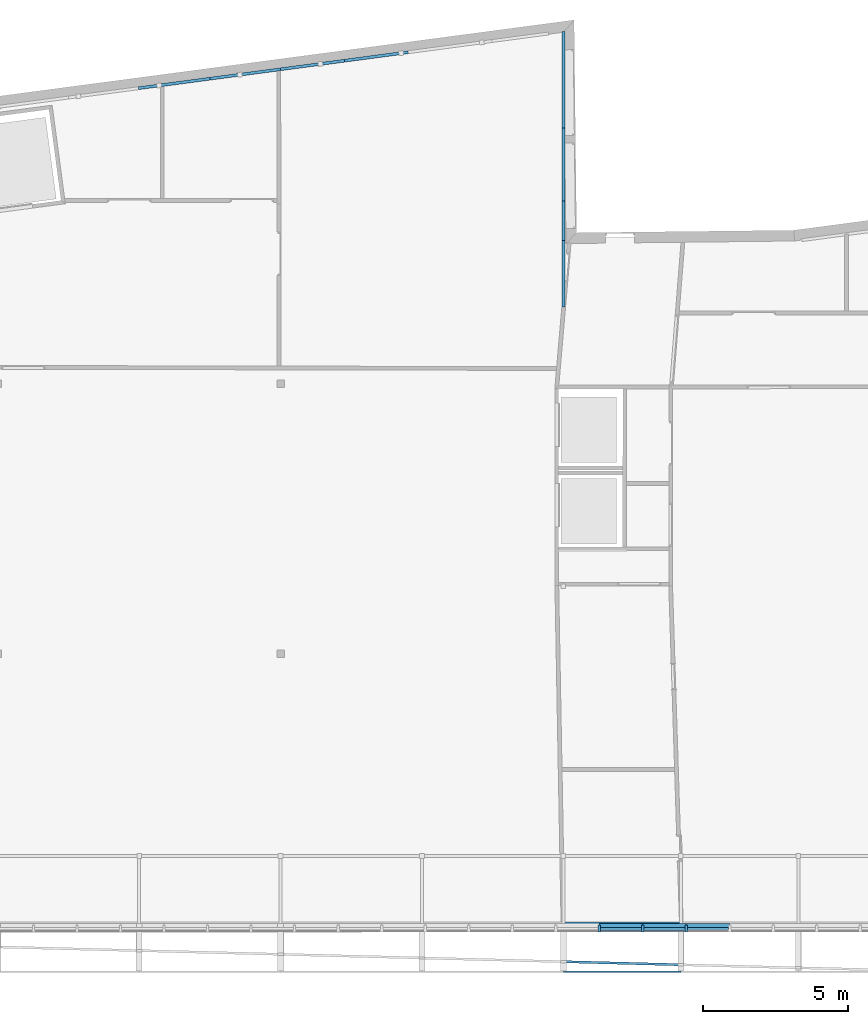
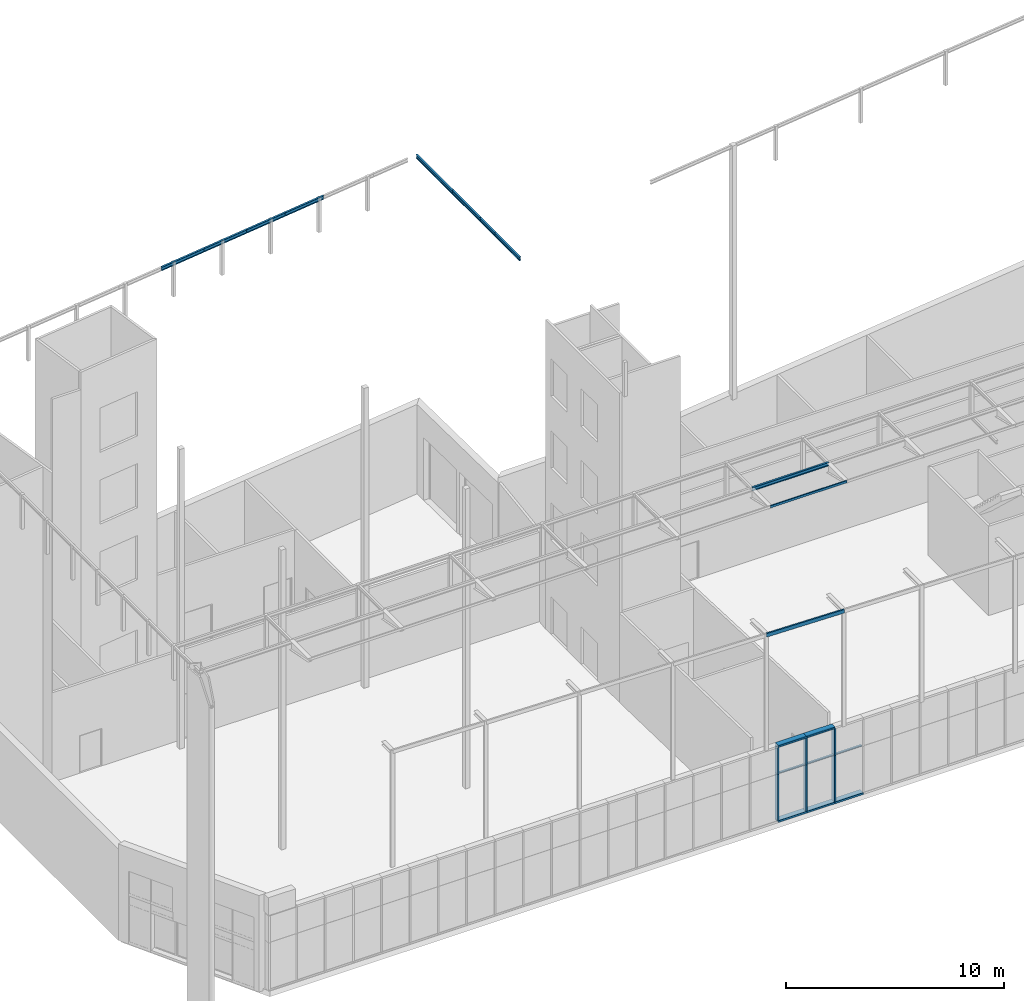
# One storey, part 10 of 40: 16 members, 11 beams, 1 element without a shape of its own.
"""IFC2X3 building model written with IfcOpenShell, lengths in metres."""

import ifcopenshell
import ifcopenshell.guid

model = None  # the IFC model being written
_history = None  # IfcOwnerHistory: only IFC2X3 demands one
_inside = {}  # id of a spatial element -> (the spatial element, [elements in it])
_under = {}  # id of a project, library or spatial element -> (it, [spatial elements below it])
_declared = {}  # id of a project -> (the project, [libraries it declares])
_typed = {}  # id of a type object -> (the type object, [elements of that type])
_made_of = {}  # id of a material, layer set ... -> (it, [elements and type objects made of it])


def new_model(schema):
    """Start an empty IFC model of exactly this schema.

    Asked for "IFC4X3", IfcOpenShell would pick the latest addendum, in which some entities
    have other attributes; the version numbers below select the first issue.
    IFC2X3 requires an IfcOwnerHistory on every rooted entity: one is made here for all.
    """
    global model, _history
    if schema == "IFC4X3":
        model = ifcopenshell.file(schema_version=(4, 3, 0, 0))
    else:
        model = ifcopenshell.file(schema=schema)
    _inside.clear()
    _under.clear()
    _declared.clear()
    _typed.clear()
    _made_of.clear()
    _history = None
    if model.schema == "IFC2X3":
        org = make("IfcOrganization", Name="unknown")
        user = make(
            "IfcPersonAndOrganization",
            ThePerson=make("IfcPerson", FamilyName="unknown"),
            TheOrganization=org,
        )
        app = make(
            "IfcApplication",
            ApplicationDeveloper=org,
            Version="unknown",
            ApplicationFullName="unknown",
            ApplicationIdentifier="unknown",
        )
        _history = make(
            "IfcOwnerHistory",
            OwningUser=user,
            OwningApplication=app,
            ChangeAction="ADDED",
            CreationDate=0,
        )
    return model


def make(cls, **values):
    """One entity of the class cls with the attributes given. An attribute that is None is left unset."""
    return model.create_entity(
        cls, **{name: value for name, value in values.items() if value is not None}
    )


def entity(cls, *values):
    """Any entity or typed value of the class cls, its attributes in the order of the schema. None: left unset."""
    e = model.create_entity(cls)
    for i, value in enumerate(values):
        if value is not None:
            e[i] = value
    return e


def rooted(cls, **values):
    """An entity with a GlobalId (a new one), such as an element, a storey or a relation."""
    return make(cls, GlobalId=ifcopenshell.guid.new(), OwnerHistory=_history, **values)


def si_unit(unit_type, name, prefix=None):
    """IfcSIUnit, for example si_unit("LENGTHUNIT", "METRE", prefix="MILLI")."""
    return make("IfcSIUnit", UnitType=unit_type, Prefix=prefix, Name=name)


def converted_unit(unit_type, name, factor, base, dimensions=None, offset=None):
    """IfcConversionBasedUnit, such as the inch: factor (a typed value) times the base unit."""
    return make(
        "IfcConversionBasedUnit"
        if offset is None
        else "IfcConversionBasedUnitWithOffset",
        ConversionOffset=offset,
        Dimensions=None
        if dimensions is None
        else entity("IfcDimensionalExponents", *dimensions),
        UnitType=unit_type,
        Name=name,
        ConversionFactor=make(
            "IfcMeasureWithUnit", ValueComponent=factor, UnitComponent=base
        ),
    )


def money_unit(currency):
    """IfcMonetaryUnit."""
    return make("IfcMonetaryUnit", Currency=currency)


def assignment(units):
    """IfcUnitAssignment: the units of a project."""
    return None if units is None else make("IfcUnitAssignment", Units=units)


def point(xyz):
    """IfcCartesianPoint."""
    return None if xyz is None else make("IfcCartesianPoint", Coordinates=xyz)


def direction(xyz):
    """IfcDirection."""
    return None if xyz is None else make("IfcDirection", DirectionRatios=xyz)


def frame(location, z_axis=None, x_axis=None):
    """IfcAxis2Placement3D, a coordinate frame: its origin and axes. An axis left out is left unset."""
    return make(
        "IfcAxis2Placement3D",
        Location=point(location),
        Axis=direction(z_axis),
        RefDirection=direction(x_axis),
    )


def frame_2d(location, x_axis=None):
    """IfcAxis2Placement2D, a coordinate frame in the plane: its origin and x axis."""
    return make(
        "IfcAxis2Placement2D", Location=point(location), RefDirection=direction(x_axis)
    )


def origin_with_axes():
    """The frame at (0, 0, 0) with the z axis (0, 0, 1) and the x axis (1, 0, 0) written out."""
    return frame((0.0, 0.0, 0.0), z_axis=(0.0, 0.0, 1.0), x_axis=(1.0, 0.0, 0.0))


def place(relative_to, where):
    """IfcLocalPlacement: puts the frame where relative to a parent placement (None: the world)."""
    return make(
        "IfcLocalPlacement", PlacementRelTo=relative_to, RelativePlacement=where
    )


def context(
    kind, dimensions, precision=None, world=None, true_north=None, identifier=None
):
    """IfcGeometricRepresentationContext, for example the 3D "Model" context."""
    return make(
        "IfcGeometricRepresentationContext",
        ContextIdentifier=identifier,
        ContextType=kind,
        CoordinateSpaceDimension=dimensions,
        Precision=precision,
        WorldCoordinateSystem=world,
        TrueNorth=true_north,
    )


def subcontext(parent, identifier, kind, view, scale=None):
    """IfcGeometricRepresentationSubContext, for example "Body" below "Model"."""
    return make(
        "IfcGeometricRepresentationSubContext",
        ContextIdentifier=identifier,
        ContextType=kind,
        ParentContext=parent,
        TargetScale=scale,
        TargetView=view,
    )


def project(units=None, contexts=None):
    """IfcProject with its units and contexts."""
    return rooted(
        "IfcProject",
        Name="project",
        RepresentationContexts=contexts,
        UnitsInContext=assignment(units),
    )


def spatial(cls, under=None, at=None, **own):
    """A site, building, storey or space (cls), placed at a placement, below another one or the project."""
    s = rooted(cls, ObjectPlacement=at, **own)
    if under is not None:
        _under.setdefault(under.id(), (under, []))[1].append(s)
    return s


def polyline(points):
    """IfcPolyline through the points."""
    return make("IfcPolyline", Points=[point(p) for p in points])


def circle_curve(where, radius):
    """IfcCircle in the frame where."""
    return make("IfcCircle", Position=where, Radius=radius)


def parameter(value):
    """IfcParameterValue: where a trimmed curve begins or ends, as a parameter of its basis curve."""
    return model.create_entity("IfcParameterValue", value)


def trimmed(basis, trim1, trim2, sense, master):
    """IfcTrimmedCurve: the piece of a basis curve between two trims."""
    return make(
        "IfcTrimmedCurve",
        BasisCurve=basis,
        Trim1=trim1,
        Trim2=trim2,
        SenseAgreement=sense,
        MasterRepresentation=master,
    )


def segment(curve, same_sense, transition):
    """IfcCompositeCurveSegment."""
    return make(
        "IfcCompositeCurveSegment",
        Transition=transition,
        SameSense=same_sense,
        ParentCurve=curve,
    )


def composite_curve(segments, self_intersect=None):
    """IfcCompositeCurve: segments joined end to end."""
    return make("IfcCompositeCurve", Segments=segments, SelfIntersect=self_intersect)


def outline(outer, holes=None, kind="AREA"):
    """IfcArbitraryClosedProfileDef: a profile drawn as a closed curve; with holes, ...WithVoids."""
    if holes is None:
        return make("IfcArbitraryClosedProfileDef", ProfileType=kind, OuterCurve=outer)
    return make(
        "IfcArbitraryProfileDefWithVoids",
        ProfileType=kind,
        OuterCurve=outer,
        InnerCurves=holes,
    )


def extrude(swept, where, along, depth):
    """IfcExtrudedAreaSolid: the profile swept, set in the frame where, extruded along a direction by depth."""
    return make(
        "IfcExtrudedAreaSolid",
        SweptArea=swept,
        Position=where,
        ExtrudedDirection=direction(along),
        Depth=depth,
    )


def shape(context_of_items, identifier, shape_type, items):
    """IfcShapeRepresentation: the items that make up one representation, for example the "Body"."""
    return make(
        "IfcShapeRepresentation",
        ContextOfItems=context_of_items,
        RepresentationIdentifier=identifier,
        RepresentationType=shape_type,
        Items=items,
    )


def material(Name=None, Category=None):
    """IfcMaterial."""
    return make("IfcMaterial", Name=Name, Category=Category)


def made_of(thing, what):
    """Note that an element or type object is made of a material, layer set ...; save() writes the relation."""
    if what is not None:
        _made_of.setdefault(what.id(), (what, []))[1].append(thing)
    return thing


def type_object(cls, material=None, **own):
    """A type object (cls), such as IfcWallType, which elements share."""
    return made_of(rooted(cls, **own), material)


def element(
    cls,
    number,
    at=None,
    inside=None,
    cuts=None,
    type_object=None,
    material=None,
    context=None,
    identifier="Body",
    shape_type=None,
    held_by="IfcProductDefinitionShape",
    body=None,
    shapes=None,
    **own,
):
    """One element of the class cls, such as IfcWall. Its Tag is "e" and its number.

    at: its placement. inside: the storey or other place that contains it. cuts: it is an
    opening in that element (IfcRelVoidsElement). A single representation is given by context,
    identifier, shape_type and body (its items); several are given by shapes. held_by: the class
    of the entity that holds the representations. save() writes the other relations.
    """
    e = rooted(cls, Tag="e%d" % number, ObjectPlacement=at, **own)
    if body is not None:
        shapes = [shape(context, identifier, shape_type, body)]
    if shapes is not None:
        e.Representation = make(held_by, Representations=shapes)
    if inside is not None:
        _inside.setdefault(inside.id(), (inside, []))[1].append(e)
    if cuts is not None:
        rooted(
            "IfcRelVoidsElement", RelatingBuildingElement=cuts, RelatedOpeningElement=e
        )
    if type_object is not None:
        _typed.setdefault(type_object.id(), (type_object, []))[1].append(e)
    return made_of(e, material)


def aggregate(whole, parts):
    """IfcRelAggregates: a whole, such as a stair, and the parts it consists of."""
    return rooted("IfcRelAggregates", RelatingObject=whole, RelatedObjects=parts)


def save(model, path):
    """Write the relations noted so far, then the file.

    IfcRelAggregates (storeys below a building ...), IfcRelContainedInSpatialStructure (elements
    in a storey), IfcRelDefinesByType, IfcRelAssociatesMaterial and IfcRelDeclares: one each for
    every whole, place, type object, material and project.
    """
    for whole, parts in _under.values():
        aggregate(whole, parts)
    for where, things in _inside.values():
        rooted(
            "IfcRelContainedInSpatialStructure",
            RelatedElements=things,
            RelatingStructure=where,
        )
    for kind, things in _typed.values():
        rooted("IfcRelDefinesByType", RelatedObjects=things, RelatingType=kind)
    for what, things in _made_of.values():
        rooted("IfcRelAssociatesMaterial", RelatedObjects=things, RelatingMaterial=what)
    for by, libraries in _declared.values():
        rooted("IfcRelDeclares", RelatingContext=by, RelatedDefinitions=libraries)
    model.write(path)


model = new_model("IFC2X3")

# Units and contexts
model_context = context("Model", 3, precision=1e-05, world=origin_with_axes(), true_north=direction((0.0, 1.0)))
body_context = subcontext(model_context, "Body", "Model", "MODEL_VIEW")
ifc_project = project(units=[si_unit("LENGTHUNIT", "METRE"), si_unit("AREAUNIT", "SQUARE_METRE"), si_unit("VOLUMEUNIT", "CUBIC_METRE"), converted_unit("PLANEANGLEUNIT", "DEGREE", entity("IfcPlaneAngleMeasure", 0.0174532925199), si_unit("PLANEANGLEUNIT", "RADIAN"), dimensions=[0, 0, 0, 0, 0, 0, 0]), si_unit("SOLIDANGLEUNIT", "STERADIAN"), money_unit("EUR"), converted_unit("TIMEUNIT", "Year", entity("IfcTimeMeasure", 31556926.0), si_unit("TIMEUNIT", "SECOND"), dimensions=[0, 0, 0, 0, 0, 0, 0]), si_unit("MASSUNIT", "GRAM"), si_unit("THERMODYNAMICTEMPERATUREUNIT", "DEGREE_CELSIUS"), si_unit("LUMINOUSINTENSITYUNIT", "LUMEN")], contexts=[model_context])

# Site, building, storey
site_placement = place(None, origin_with_axes())
site = spatial("IfcSite", under=ifc_project, at=site_placement, Name="Undefined", CompositionType="ELEMENT")
building_placement = place(site_placement, origin_with_axes())
building = spatial("IfcBuilding", under=site, at=building_placement, Name="Undefined", CompositionType="ELEMENT")
storey_placement = place(building_placement, origin_with_axes())
storey = spatial("IfcBuildingStorey", under=building, at=storey_placement, Name="Rez de chauss\x8ee", CompositionType="ELEMENT", Elevation=0.0)

# Beams
ifc_material_1 = material(Name="STEEL/S235JRG2 3386696625")
beam_type_1 = type_object("IfcBeamType", Name="IPE200", PredefinedType="NOTDEFINED")
beam_1_placement = place(storey_placement, frame((19.4999996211, 29.4484599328, 19.025), z_axis=(0.0, 0.0, 1.0), x_axis=(0.132254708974, -0.991215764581, 0.0)))
element("IfcBeam", 1, at=beam_1_placement, inside=storey, type_object=beam_type_1, material=ifc_material_1, Name="Poutre", ObjectType="BEAM", context=body_context, shape_type="SweptSolid", body=[
    extrude(outline(composite_curve([segment(polyline([(0.05, -0.1), (0.05, -0.0915), (0.0147999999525, -0.0915)]), True, "CONTINUOUS"), segment(trimmed(circle_curve(frame_2d((0.0147999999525, -0.0795), x_axis=(-1.0, 0.0)), 0.012), [point((0.0147999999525, -0.0915)), parameter(90.0)], [point((0.0027999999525, -0.0795)), parameter(0.0)], False, "CARTESIAN"), True, "CONTINUOUS"), segment(polyline([(0.0027999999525, -0.0795), (0.0027999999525, 0.0795)]), True, "CONTINUOUS"), segment(trimmed(circle_curve(frame_2d((0.0147999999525, 0.0795), x_axis=(0.0, 1.0)), 0.012), [point((0.0027999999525, 0.0795)), parameter(90.0)], [point((0.0147999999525, 0.0915)), parameter(0.0)], False, "CARTESIAN"), True, "CONTINUOUS"), segment(polyline([(0.0147999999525, 0.0915), (0.05, 0.0915), (0.05, 0.1), (-0.05, 0.1), (-0.05, 0.0915), (-0.0147999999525, 0.0915)]), True, "CONTINUOUS"), segment(trimmed(circle_curve(frame_2d((-0.0147999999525, 0.0795), x_axis=(1.0, 0.0)), 0.012), [point((-0.0147999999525, 0.0915)), parameter(90.0)], [point((-0.0027999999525, 0.0795)), parameter(0.0)], False, "CARTESIAN"), True, "CONTINUOUS"), segment(polyline([(-0.0027999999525, 0.0795), (-0.0027999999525, -0.0795)]), True, "CONTINUOUS"), segment(trimmed(circle_curve(frame_2d((-0.0147999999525, -0.0795), x_axis=(0.0, -1.0)), 0.012), [point((-0.0027999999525, -0.0795)), parameter(90.0)], [point((-0.0147999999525, -0.0915)), parameter(0.0)], False, "CARTESIAN"), True, "CONTINUOUS"), segment(polyline([(-0.0147999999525, -0.0915), (-0.05, -0.0915), (-0.05, -0.1), (0.05, -0.1)]), True, "CONTINUOUS")], self_intersect=False)), frame((0.0, 2.22009719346, 0.0), z_axis=(0.0, -1.0, 0.0), x_axis=(1.0, 0.0, 0.0)), (0.0, 0.0, 1.0), 2.22009719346),
])
beam_2_placement = place(storey_placement, frame((29.2500007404, 3.10814379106e-10, 19.025), z_axis=(0.0, 0.0, 1.0), x_axis=(0.0, -1.0, 0.0)))
element("IfcBeam", 2, at=beam_2_placement, inside=storey, type_object=beam_type_1, material=ifc_material_1, Name="Poutre", ObjectType="BEAM", context=body_context, shape_type="SweptSolid", body=[
    extrude(outline(composite_curve([segment(polyline([(0.05, -0.1), (0.05, -0.0915), (0.0147999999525, -0.0915)]), True, "CONTINUOUS"), segment(trimmed(circle_curve(frame_2d((0.0147999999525, -0.0795), x_axis=(-1.0, 0.0)), 0.012), [point((0.0147999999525, -0.0915)), parameter(90.0)], [point((0.0027999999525, -0.0795)), parameter(0.0)], False, "CARTESIAN"), True, "CONTINUOUS"), segment(polyline([(0.0027999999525, -0.0795), (0.0027999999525, 0.0795)]), True, "CONTINUOUS"), segment(trimmed(circle_curve(frame_2d((0.0147999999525, 0.0795), x_axis=(0.0, 1.0)), 0.012), [point((0.0027999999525, 0.0795)), parameter(90.0)], [point((0.0147999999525, 0.0915)), parameter(0.0)], False, "CARTESIAN"), True, "CONTINUOUS"), segment(polyline([(0.0147999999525, 0.0915), (0.05, 0.0915), (0.05, 0.1), (-0.05, 0.1), (-0.05, 0.0915), (-0.0147999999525, 0.0915)]), True, "CONTINUOUS"), segment(trimmed(circle_curve(frame_2d((-0.0147999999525, 0.0795), x_axis=(1.0, 0.0)), 0.012), [point((-0.0147999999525, 0.0915)), parameter(90.0)], [point((-0.0027999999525, 0.0795)), parameter(0.0)], False, "CARTESIAN"), True, "CONTINUOUS"), segment(polyline([(-0.0027999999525, 0.0795), (-0.0027999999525, -0.0795)]), True, "CONTINUOUS"), segment(trimmed(circle_curve(frame_2d((-0.0147999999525, -0.0795), x_axis=(0.0, -1.0)), 0.012), [point((-0.0027999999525, -0.0795)), parameter(90.0)], [point((-0.0147999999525, -0.0915)), parameter(0.0)], False, "CARTESIAN"), True, "CONTINUOUS"), segment(polyline([(-0.0147999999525, -0.0915), (-0.05, -0.0915), (-0.05, -0.1), (0.05, -0.1)]), True, "CONTINUOUS")], self_intersect=False)), frame((0.0, 4.05, 0.0), z_axis=(0.0, -1.0, 0.0), x_axis=(1.0, 0.0, 0.0)), (0.0, 0.0, 1.0), 4.05),
])
beam_3_placement = place(storey_placement, frame((29.2500000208, 30.7493798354, 19.025), z_axis=(0.0, 0.0, 1.0), x_axis=(-1.0, 6.63013993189e-09, 0.0)))
element("IfcBeam", 3, at=beam_3_placement, inside=storey, type_object=beam_type_1, material=ifc_material_1, Name="Poutre", ObjectType="BEAM", context=body_context, shape_type="SweptSolid", body=[
    extrude(outline(composite_curve([segment(polyline([(0.05, -0.1), (0.05, -0.0915), (0.0147999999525, -0.0915)]), True, "CONTINUOUS"), segment(trimmed(circle_curve(frame_2d((0.0147999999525, -0.0795), x_axis=(-1.0, 0.0)), 0.012), [point((0.0147999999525, -0.0915)), parameter(90.0)], [point((0.0027999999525, -0.0795)), parameter(0.0)], False, "CARTESIAN"), True, "CONTINUOUS"), segment(polyline([(0.0027999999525, -0.0795), (0.0027999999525, 0.0795)]), True, "CONTINUOUS"), segment(trimmed(circle_curve(frame_2d((0.0147999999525, 0.0795), x_axis=(0.0, 1.0)), 0.012), [point((0.0027999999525, 0.0795)), parameter(90.0)], [point((0.0147999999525, 0.0915)), parameter(0.0)], False, "CARTESIAN"), True, "CONTINUOUS"), segment(polyline([(0.0147999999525, 0.0915), (0.05, 0.0915), (0.05, 0.1), (-0.05, 0.1), (-0.05, 0.0915), (-0.0147999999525, 0.0915)]), True, "CONTINUOUS"), segment(trimmed(circle_curve(frame_2d((-0.0147999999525, 0.0795), x_axis=(1.0, 0.0)), 0.012), [point((-0.0147999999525, 0.0915)), parameter(90.0)], [point((-0.0027999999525, 0.0795)), parameter(0.0)], False, "CARTESIAN"), True, "CONTINUOUS"), segment(polyline([(-0.0027999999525, 0.0795), (-0.0027999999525, -0.0795)]), True, "CONTINUOUS"), segment(trimmed(circle_curve(frame_2d((-0.0147999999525, -0.0795), x_axis=(0.0, -1.0)), 0.012), [point((-0.0027999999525, -0.0795)), parameter(90.0)], [point((-0.0147999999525, -0.0915)), parameter(0.0)], False, "CARTESIAN"), True, "CONTINUOUS"), segment(polyline([(-0.0147999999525, -0.0915), (-0.05, -0.0915), (-0.05, -0.1), (0.05, -0.1)]), True, "CONTINUOUS")], self_intersect=False)), frame((0.0, 3.31937983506, 0.0), z_axis=(0.0, -1.0, 0.0), x_axis=(1.0, 0.0, 0.0)), (0.0, 0.0, 1.0), 3.31937983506),
])
beam_4_placement = place(storey_placement, frame((29.2499999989, 27.4300000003, 19.025), z_axis=(0.0, 0.0, 1.0), x_axis=(-1.0, 0.0, 0.0)))
element("IfcBeam", 4, at=beam_4_placement, inside=storey, type_object=beam_type_1, material=ifc_material_1, Name="Poutre", ObjectType="BEAM", context=body_context, shape_type="SweptSolid", body=[
    extrude(outline(composite_curve([segment(polyline([(0.05, -0.1), (0.05, -0.0915), (0.0147999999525, -0.0915)]), True, "CONTINUOUS"), segment(trimmed(circle_curve(frame_2d((0.0147999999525, -0.0795), x_axis=(-1.0, 0.0)), 0.012), [point((0.0147999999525, -0.0915)), parameter(90.0)], [point((0.0027999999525, -0.0795)), parameter(0.0)], False, "CARTESIAN"), True, "CONTINUOUS"), segment(polyline([(0.0027999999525, -0.0795), (0.0027999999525, 0.0795)]), True, "CONTINUOUS"), segment(trimmed(circle_curve(frame_2d((0.0147999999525, 0.0795), x_axis=(0.0, 1.0)), 0.012), [point((0.0027999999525, 0.0795)), parameter(90.0)], [point((0.0147999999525, 0.0915)), parameter(0.0)], False, "CARTESIAN"), True, "CONTINUOUS"), segment(polyline([(0.0147999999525, 0.0915), (0.05, 0.0915), (0.05, 0.1), (-0.05, 0.1), (-0.05, 0.0915), (-0.0147999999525, 0.0915)]), True, "CONTINUOUS"), segment(trimmed(circle_curve(frame_2d((-0.0147999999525, 0.0795), x_axis=(1.0, 0.0)), 0.012), [point((-0.0147999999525, 0.0915)), parameter(90.0)], [point((-0.0027999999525, 0.0795)), parameter(0.0)], False, "CARTESIAN"), True, "CONTINUOUS"), segment(polyline([(-0.0027999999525, 0.0795), (-0.0027999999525, -0.0795)]), True, "CONTINUOUS"), segment(trimmed(circle_curve(frame_2d((-0.0147999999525, -0.0795), x_axis=(0.0, -1.0)), 0.012), [point((-0.0027999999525, -0.0795)), parameter(90.0)], [point((-0.0147999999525, -0.0915)), parameter(0.0)], False, "CARTESIAN"), True, "CONTINUOUS"), segment(polyline([(-0.0147999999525, -0.0915), (-0.05, -0.0915), (-0.05, -0.1), (0.05, -0.1)]), True, "CONTINUOUS")], self_intersect=False)), frame((0.0, 2.53, 0.0), z_axis=(0.0, -1.0, 0.0), x_axis=(1.0, 0.0, 0.0)), (0.0, 0.0, 1.0), 2.53),
])
beam_5_placement = place(storey_placement, frame((29.249999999, 24.9000000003, 19.025), z_axis=(0.0, 0.0, 1.0), x_axis=(-1.0, 0.0, 0.0)))
element("IfcBeam", 5, at=beam_5_placement, inside=storey, type_object=beam_type_1, material=ifc_material_1, Name="Poutre", ObjectType="BEAM", context=body_context, shape_type="SweptSolid", body=[
    extrude(outline(composite_curve([segment(polyline([(0.05, -0.1), (0.05, -0.0915), (0.0147999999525, -0.0915)]), True, "CONTINUOUS"), segment(trimmed(circle_curve(frame_2d((0.0147999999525, -0.0795), x_axis=(-1.0, 0.0)), 0.012), [point((0.0147999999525, -0.0915)), parameter(90.0)], [point((0.0027999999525, -0.0795)), parameter(0.0)], False, "CARTESIAN"), True, "CONTINUOUS"), segment(polyline([(0.0027999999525, -0.0795), (0.0027999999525, 0.0795)]), True, "CONTINUOUS"), segment(trimmed(circle_curve(frame_2d((0.0147999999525, 0.0795), x_axis=(0.0, 1.0)), 0.012), [point((0.0027999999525, 0.0795)), parameter(90.0)], [point((0.0147999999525, 0.0915)), parameter(0.0)], False, "CARTESIAN"), True, "CONTINUOUS"), segment(polyline([(0.0147999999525, 0.0915), (0.05, 0.0915), (0.05, 0.1), (-0.05, 0.1), (-0.05, 0.0915), (-0.0147999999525, 0.0915)]), True, "CONTINUOUS"), segment(trimmed(circle_curve(frame_2d((-0.0147999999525, 0.0795), x_axis=(1.0, 0.0)), 0.012), [point((-0.0147999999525, 0.0915)), parameter(90.0)], [point((-0.0027999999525, 0.0795)), parameter(0.0)], False, "CARTESIAN"), True, "CONTINUOUS"), segment(polyline([(-0.0027999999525, 0.0795), (-0.0027999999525, -0.0795)]), True, "CONTINUOUS"), segment(trimmed(circle_curve(frame_2d((-0.0147999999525, -0.0795), x_axis=(0.0, -1.0)), 0.012), [point((-0.0027999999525, -0.0795)), parameter(90.0)], [point((-0.0147999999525, -0.0915)), parameter(0.0)], False, "CARTESIAN"), True, "CONTINUOUS"), segment(polyline([(-0.0147999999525, -0.0915), (-0.05, -0.0915), (-0.05, -0.1), (0.05, -0.1)]), True, "CONTINUOUS")], self_intersect=False)), frame((0.0, 1.3559, 0.0), z_axis=(0.0, -1.0, 0.0), x_axis=(1.0, 0.0, 0.0)), (0.0, 0.0, 1.0), 1.3559),
])
beam_6_placement = place(storey_placement, frame((21.7005948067, 29.7420793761, 19.025), z_axis=(0.0, 0.0, 1.0), x_axis=(0.132254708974, -0.991215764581, 0.0)))
element("IfcBeam", 6, at=beam_6_placement, inside=storey, type_object=beam_type_1, material=ifc_material_1, Name="Poutre", ObjectType="BEAM", context=body_context, shape_type="SweptSolid", body=[
    extrude(outline(composite_curve([segment(polyline([(0.05, -0.1), (0.05, -0.0915), (0.0147999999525, -0.0915)]), True, "CONTINUOUS"), segment(trimmed(circle_curve(frame_2d((0.0147999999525, -0.0795), x_axis=(-1.0, 0.0)), 0.012), [point((0.0147999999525, -0.0915)), parameter(90.0)], [point((0.0027999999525, -0.0795)), parameter(0.0)], False, "CARTESIAN"), True, "CONTINUOUS"), segment(polyline([(0.0027999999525, -0.0795), (0.0027999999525, 0.0795)]), True, "CONTINUOUS"), segment(trimmed(circle_curve(frame_2d((0.0147999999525, 0.0795), x_axis=(0.0, 1.0)), 0.012), [point((0.0027999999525, 0.0795)), parameter(90.0)], [point((0.0147999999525, 0.0915)), parameter(0.0)], False, "CARTESIAN"), True, "CONTINUOUS"), segment(polyline([(0.0147999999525, 0.0915), (0.05, 0.0915), (0.05, 0.1), (-0.05, 0.1), (-0.05, 0.0915), (-0.0147999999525, 0.0915)]), True, "CONTINUOUS"), segment(trimmed(circle_curve(frame_2d((-0.0147999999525, 0.0795), x_axis=(1.0, 0.0)), 0.012), [point((-0.0147999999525, 0.0915)), parameter(90.0)], [point((-0.0027999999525, 0.0795)), parameter(0.0)], False, "CARTESIAN"), True, "CONTINUOUS"), segment(polyline([(-0.0027999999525, 0.0795), (-0.0027999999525, -0.0795)]), True, "CONTINUOUS"), segment(trimmed(circle_curve(frame_2d((-0.0147999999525, -0.0795), x_axis=(0.0, -1.0)), 0.012), [point((-0.0027999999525, -0.0795)), parameter(90.0)], [point((-0.0147999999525, -0.0915)), parameter(0.0)], False, "CARTESIAN"), True, "CONTINUOUS"), segment(polyline([(-0.0147999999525, -0.0915), (-0.05, -0.0915), (-0.05, -0.1), (0.05, -0.1)]), True, "CONTINUOUS")], self_intersect=False)), frame((0.0, 2.22009724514, 0.0), z_axis=(0.0, -1.0, 0.0), x_axis=(1.0, 0.0, 0.0)), (0.0, 0.0, 1.0), 2.22009724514),
])
beam_7_placement = place(storey_placement, frame((14.6008758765, 28.7947724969, 19.025), z_axis=(0.0, 0.0, 1.0), x_axis=(0.132256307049, -0.991215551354, 0.0)))
element("IfcBeam", 7, at=beam_7_placement, inside=storey, type_object=beam_type_1, material=ifc_material_1, Name="Poutre", ObjectType="BEAM", context=body_context, shape_type="SweptSolid", body=[
    extrude(outline(composite_curve([segment(polyline([(0.05, -0.1), (0.05, -0.0915), (0.0147999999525, -0.0915)]), True, "CONTINUOUS"), segment(trimmed(circle_curve(frame_2d((0.0147999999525, -0.0795), x_axis=(-1.0, 0.0)), 0.012), [point((0.0147999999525, -0.0915)), parameter(90.0)], [point((0.0027999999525, -0.0795)), parameter(0.0)], False, "CARTESIAN"), True, "CONTINUOUS"), segment(polyline([(0.0027999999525, -0.0795), (0.0027999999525, 0.0795)]), True, "CONTINUOUS"), segment(trimmed(circle_curve(frame_2d((0.0147999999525, 0.0795), x_axis=(0.0, 1.0)), 0.012), [point((0.0027999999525, 0.0795)), parameter(90.0)], [point((0.0147999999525, 0.0915)), parameter(0.0)], False, "CARTESIAN"), True, "CONTINUOUS"), segment(polyline([(0.0147999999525, 0.0915), (0.05, 0.0915), (0.05, 0.1), (-0.05, 0.1), (-0.05, 0.0915), (-0.0147999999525, 0.0915)]), True, "CONTINUOUS"), segment(trimmed(circle_curve(frame_2d((-0.0147999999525, 0.0795), x_axis=(1.0, 0.0)), 0.012), [point((-0.0147999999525, 0.0915)), parameter(90.0)], [point((-0.0027999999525, 0.0795)), parameter(0.0)], False, "CARTESIAN"), True, "CONTINUOUS"), segment(polyline([(-0.0027999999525, 0.0795), (-0.0027999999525, -0.0795)]), True, "CONTINUOUS"), segment(trimmed(circle_curve(frame_2d((-0.0147999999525, -0.0795), x_axis=(0.0, -1.0)), 0.012), [point((-0.0027999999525, -0.0795)), parameter(90.0)], [point((-0.0147999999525, -0.0915)), parameter(0.0)], False, "CARTESIAN"), True, "CONTINUOUS"), segment(polyline([(-0.0147999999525, -0.0915), (-0.05, -0.0915), (-0.05, -0.1), (0.05, -0.1)]), True, "CONTINUOUS")], self_intersect=False)), frame((0.0, 2.48343983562, 0.0), z_axis=(0.0, -1.0, 0.0), x_axis=(1.0, 0.0, 0.0)), (0.0, 0.0, 1.0), 2.48343983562),
])
beam_8_placement = place(storey_placement, frame((17.0624998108, 29.1232249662, 19.025), z_axis=(0.0, 0.0, 1.0), x_axis=(0.132257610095, -0.99121537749, 0.0)))
element("IfcBeam", 8, at=beam_8_placement, inside=storey, type_object=beam_type_1, material=ifc_material_1, Name="Poutre", ObjectType="BEAM", context=body_context, shape_type="SweptSolid", body=[
    extrude(outline(composite_curve([segment(polyline([(0.05, -0.1), (0.05, -0.0915), (0.0147999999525, -0.0915)]), True, "CONTINUOUS"), segment(trimmed(circle_curve(frame_2d((0.0147999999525, -0.0795), x_axis=(-1.0, 0.0)), 0.012), [point((0.0147999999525, -0.0915)), parameter(90.0)], [point((0.0027999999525, -0.0795)), parameter(0.0)], False, "CARTESIAN"), True, "CONTINUOUS"), segment(polyline([(0.0027999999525, -0.0795), (0.0027999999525, 0.0795)]), True, "CONTINUOUS"), segment(trimmed(circle_curve(frame_2d((0.0147999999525, 0.0795), x_axis=(0.0, 1.0)), 0.012), [point((0.0027999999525, 0.0795)), parameter(90.0)], [point((0.0147999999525, 0.0915)), parameter(0.0)], False, "CARTESIAN"), True, "CONTINUOUS"), segment(polyline([(0.0147999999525, 0.0915), (0.05, 0.0915), (0.05, 0.1), (-0.05, 0.1), (-0.05, 0.0915), (-0.0147999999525, 0.0915)]), True, "CONTINUOUS"), segment(trimmed(circle_curve(frame_2d((-0.0147999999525, 0.0795), x_axis=(1.0, 0.0)), 0.012), [point((-0.0147999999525, 0.0915)), parameter(90.0)], [point((-0.0027999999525, 0.0795)), parameter(0.0)], False, "CARTESIAN"), True, "CONTINUOUS"), segment(polyline([(-0.0027999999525, 0.0795), (-0.0027999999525, -0.0795)]), True, "CONTINUOUS"), segment(trimmed(circle_curve(frame_2d((-0.0147999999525, -0.0795), x_axis=(0.0, -1.0)), 0.012), [point((-0.0027999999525, -0.0795)), parameter(90.0)], [point((-0.0147999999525, -0.0915)), parameter(0.0)], False, "CARTESIAN"), True, "CONTINUOUS"), segment(polyline([(-0.0147999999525, -0.0915), (-0.05, -0.0915), (-0.05, -0.1), (0.05, -0.1)]), True, "CONTINUOUS")], self_intersect=False)), frame((0.0, 2.45910209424, 0.0), z_axis=(0.0, -1.0, 0.0), x_axis=(1.0, 0.0, 0.0)), (0.0, 0.0, 1.0), 2.45910209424),
])
beam_9_placement = place(storey_placement, frame((29.249999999, 23.5441000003, 19.025), z_axis=(0.0, 0.0, 1.0), x_axis=(-1.0, 0.0, 0.0)))
element("IfcBeam", 9, at=beam_9_placement, inside=storey, type_object=beam_type_1, material=ifc_material_1, Name="Poutre", ObjectType="BEAM", context=body_context, shape_type="SweptSolid", body=[
    extrude(outline(composite_curve([segment(polyline([(0.05, -0.1), (0.05, -0.0915), (0.0147999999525, -0.0915)]), True, "CONTINUOUS"), segment(trimmed(circle_curve(frame_2d((0.0147999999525, -0.0795), x_axis=(-1.0, 0.0)), 0.012), [point((0.0147999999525, -0.0915)), parameter(90.0)], [point((0.0027999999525, -0.0795)), parameter(0.0)], False, "CARTESIAN"), True, "CONTINUOUS"), segment(polyline([(0.0027999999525, -0.0795), (0.0027999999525, 0.0795)]), True, "CONTINUOUS"), segment(trimmed(circle_curve(frame_2d((0.0147999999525, 0.0795), x_axis=(0.0, 1.0)), 0.012), [point((0.0027999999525, 0.0795)), parameter(90.0)], [point((0.0147999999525, 0.0915)), parameter(0.0)], False, "CARTESIAN"), True, "CONTINUOUS"), segment(polyline([(0.0147999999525, 0.0915), (0.05, 0.0915), (0.05, 0.1), (-0.05, 0.1), (-0.05, 0.0915), (-0.0147999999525, 0.0915)]), True, "CONTINUOUS"), segment(trimmed(circle_curve(frame_2d((-0.0147999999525, 0.0795), x_axis=(1.0, 0.0)), 0.012), [point((-0.0147999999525, 0.0915)), parameter(90.0)], [point((-0.0027999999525, 0.0795)), parameter(0.0)], False, "CARTESIAN"), True, "CONTINUOUS"), segment(polyline([(-0.0027999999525, 0.0795), (-0.0027999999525, -0.0795)]), True, "CONTINUOUS"), segment(trimmed(circle_curve(frame_2d((-0.0147999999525, -0.0795), x_axis=(0.0, -1.0)), 0.012), [point((-0.0027999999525, -0.0795)), parameter(90.0)], [point((-0.0147999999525, -0.0915)), parameter(0.0)], False, "CARTESIAN"), True, "CONTINUOUS"), segment(polyline([(-0.0147999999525, -0.0915), (-0.05, -0.0915), (-0.05, -0.1), (0.05, -0.1)]), True, "CONTINUOUS")], self_intersect=False)), frame((0.0, 2.3, 0.0), z_axis=(0.0, -1.0, 0.0), x_axis=(1.0, 0.0, 0.0)), (0.0, 0.0, 1.0), 2.3),
])
beam_type_2 = type_object("IfcBeamType", Name="UPE200", PredefinedType="NOTDEFINED")
beam_10_placement = place(storey_placement, frame((29.2510506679, -1.31984608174, 11.65), z_axis=(0.0, 0.0, 1.0), x_axis=(-0.0262667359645, -0.999654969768, 0.0)))
element("IfcBeam", 10, at=beam_10_placement, inside=storey, type_object=beam_type_2, material=ifc_material_1, Name="BEAM", ObjectType="BEAM", context=body_context, shape_type="SweptSolid", body=[
    extrude(outline(composite_curve([segment(polyline([(-0.04, -0.1), (0.04, -0.1), (0.04, -0.089), (-0.021, -0.089)]), True, "CONTINUOUS"), segment(trimmed(circle_curve(frame_2d((-0.021, -0.076), x_axis=(-1.0, 0.0)), 0.013), [point((-0.021, -0.089)), parameter(90.0)], [point((-0.034, -0.076)), parameter(0.0)], False, "CARTESIAN"), True, "CONTINUOUS"), segment(polyline([(-0.034, -0.076), (-0.034, 0.076)]), True, "CONTINUOUS"), segment(trimmed(circle_curve(frame_2d((-0.021, 0.076), x_axis=(0.0, 1.0)), 0.013), [point((-0.034, 0.076)), parameter(90.0)], [point((-0.021, 0.089)), parameter(0.0)], False, "CARTESIAN"), True, "CONTINUOUS"), segment(polyline([(-0.021, 0.089), (0.04, 0.089), (0.04, 0.1), (-0.04, 0.1), (-0.04, -0.1)]), True, "CONTINUOUS")], self_intersect=False)), frame((0.0, 4.05139785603, 0.0), z_axis=(0.0, -1.0, 0.0), x_axis=(-1.0, 0.0, 0.0)), (0.0, 0.0, 1.0), 4.05139785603),
])
beam_type_3 = type_object("IfcBeamType", Name="UPE120", PredefinedType="NOTDEFINED")
beam_11_placement = place(storey_placement, frame((29.2574609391, -1.67000005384, 19.045), z_axis=(0.0, 0.0, 1.0), x_axis=(0.0, -1.0, 0.0)))
element("IfcBeam", 11, at=beam_11_placement, inside=storey, type_object=beam_type_3, material=ifc_material_1, Name="Poutre", ObjectType="BEAM", context=body_context, shape_type="SweptSolid", body=[
    extrude(outline(composite_curve([segment(polyline([(-0.03, -0.06), (0.03, -0.06), (0.03, -0.052), (-0.013, -0.052)]), True, "CONTINUOUS"), segment(trimmed(circle_curve(frame_2d((-0.013, -0.04), x_axis=(-1.0, 0.0)), 0.012), [point((-0.013, -0.052)), parameter(90.0)], [point((-0.025, -0.04)), parameter(0.0)], False, "CARTESIAN"), True, "CONTINUOUS"), segment(polyline([(-0.025, -0.04), (-0.025, 0.04)]), True, "CONTINUOUS"), segment(trimmed(circle_curve(frame_2d((-0.013, 0.04), x_axis=(0.0, 1.0)), 0.012), [point((-0.025, 0.04)), parameter(90.0)], [point((-0.013, 0.052)), parameter(0.0)], False, "CARTESIAN"), True, "CONTINUOUS"), segment(polyline([(-0.013, 0.052), (0.03, 0.052), (0.03, 0.06), (-0.03, 0.06), (-0.03, -0.06)]), True, "CONTINUOUS")], self_intersect=False)), frame((0.0, 4.05, 0.0), z_axis=(0.0, -1.0, 0.0), x_axis=(-1.0, 0.0, 0.0)), (0.0, 0.0, 1.0), 4.05),
])

# Curtain wall, members
curtain_wall_type = type_object("IfcCurtainWallType", Name="Type de mur-rideau", PredefinedType="NOTDEFINED")
curtain_wall_placement = place(storey_placement, frame((61.0415862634, -0.249999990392, 0.1), z_axis=(0.0, 0.0, 1.0), x_axis=(1.0, 0.0, 0.0)))
curtain_wall = element("IfcCurtainWall", 12, at=curtain_wall_placement, inside=storey, type_object=curtain_wall_type, Name="CurtainWall_02", ObjectType="CURTAIN WALL")
ifc_material_2 = material(Name="25 % 359672764")
member_type_1 = type_object("IfcMemberType", Name="Cadre 100 x 300", PredefinedType="NOTDEFINED")
member_1_placement = place(curtain_wall_placement, frame((-30.5584137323, 5.25810019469e-07, 0.0), z_axis=(1.0, -1.7206718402e-08, 0.0), x_axis=(0.0, 0.0, 1.0)))
member_1 = element("IfcMember", 13, at=member_1_placement, type_object=member_type_1, material=ifc_material_2, Name="Frame-Bnd-925", context=body_context, shape_type="SweptSolid", body=[
    extrude(outline(polyline([(-0.25, -0.1), (0.05, -0.1), (0.05, 0.0), (-0.25, 0.0), (-0.25, -0.1)])), frame((0.0, 0.0, 0.0), z_axis=(0.0, 0.0, 1.0), x_axis=(0.0, 1.0, 0.0)), (0.0, 0.0, 1.0), 1.5),
])
member_2_placement = place(curtain_wall_placement, frame((-29.0584137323, 4.99999941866e-07, 0.0), z_axis=(1.0, -1.72067183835e-08, 0.0), x_axis=(0.0, 0.0, 1.0)))
member_2 = element("IfcMember", 14, at=member_2_placement, type_object=member_type_1, material=ifc_material_2, Name="Frame-Bnd-924", context=body_context, shape_type="SweptSolid", body=[
    extrude(outline(polyline([(-0.25, -0.1), (0.05, -0.1), (0.05, 0.0), (-0.25, 0.0), (-0.25, -0.1)])), frame((0.0, 0.0, 0.0), z_axis=(0.0, 0.0, 1.0), x_axis=(0.0, 1.0, 0.0)), (0.0, 0.0, 1.0), 1.5),
])
member_3_placement = place(curtain_wall_placement, frame((-27.5584137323, 4.74189864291e-07, 0.0), z_axis=(1.0, -1.72067183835e-08, 0.0), x_axis=(0.0, 0.0, 1.0)))
member_3 = element("IfcMember", 15, at=member_3_placement, type_object=member_type_1, material=ifc_material_2, Name="Frame-Bnd-923", context=body_context, shape_type="SweptSolid", body=[
    extrude(outline(polyline([(-0.25, -0.1), (0.05, -0.1), (0.05, 0.0), (-0.25, 0.0), (-0.25, -0.1)])), frame((0.0, 0.0, 0.0), z_axis=(0.0, 0.0, 1.0), x_axis=(0.0, 1.0, 0.0)), (0.0, 0.0, 1.0), 1.5),
])
member_4_placement = place(curtain_wall_placement, frame((-27.5584137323, 4.74189864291e-07, 4.3), z_axis=(-1.0, 1.72067183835e-08, 0.0), x_axis=(0.0, 0.0, -1.0)))
member_4 = element("IfcMember", 16, at=member_4_placement, type_object=member_type_1, material=ifc_material_2, Name="Frame-Bnd-794", context=body_context, shape_type="SweptSolid", body=[
    extrude(outline(polyline([(0.25, 0.1), (-0.05, 0.1), (-0.05, 0.0), (0.25, 0.0), (0.25, 0.1)])), frame((0.0, 0.0, 0.0), z_axis=(0.0, 0.0, 1.0), x_axis=(0.0, -1.0, 0.0)), (0.0, 0.0, 1.0), 1.5),
])
member_5_placement = place(curtain_wall_placement, frame((-29.0584137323, 4.99999941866e-07, 4.3), z_axis=(-1.0, 1.7206718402e-08, 0.0), x_axis=(0.0, 0.0, -1.0)))
member_5 = element("IfcMember", 17, at=member_5_placement, type_object=member_type_1, material=ifc_material_2, Name="Frame-Bnd-793", context=body_context, shape_type="SweptSolid", body=[
    extrude(outline(polyline([(0.25, 0.1), (-0.05, 0.1), (-0.05, 0.0), (0.25, 0.0), (0.25, 0.1)])), frame((0.0, 0.0, 0.0), z_axis=(0.0, 0.0, 1.0), x_axis=(0.0, -1.0, 0.0)), (0.0, 0.0, 1.0), 1.5),
])
member_type_2 = type_object("IfcMemberType", Name="Montant 80 x 250", PredefinedType="NOTDEFINED")
member_6_placement = place(curtain_wall_placement, frame((-30.5584137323, 5.25810019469e-07, 0.0), z_axis=(0.0, 0.0, 1.0), x_axis=(-1.0, 1.72067183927e-08, 0.0)))
member_6 = element("IfcMember", 18, at=member_6_placement, type_object=member_type_2, material=ifc_material_2, Name="Frame-Mll-283", context=body_context, shape_type="SweptSolid", body=[
    extrude(outline(polyline([(-0.0399999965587, 0.200000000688), (-0.0400000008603, -0.0499999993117), (0.0399999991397, -0.0500000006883), (0.0400000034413, 0.199999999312), (-0.0399999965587, 0.200000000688)])), frame((0.0, 0.0, 0.1), z_axis=(0.0, 0.0, 1.0), x_axis=(-1.0, -1.72067183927e-08, 0.0)), (0.0, 0.0, 1.0), 2.6),
])
member_7_placement = place(curtain_wall_placement, frame((-29.0584137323, 4.99999941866e-07, 0.0), z_axis=(0.0, 0.0, 1.0), x_axis=(-1.0, 1.72067183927e-08, 0.0)))
member_7 = element("IfcMember", 19, at=member_7_placement, type_object=member_type_2, material=ifc_material_2, Name="Frame-Mll-283", context=body_context, shape_type="SweptSolid", body=[
    extrude(outline(polyline([(-0.0399999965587, 0.200000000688), (-0.0400000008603, -0.0499999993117), (0.0399999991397, -0.0500000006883), (0.0400000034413, 0.199999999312), (-0.0399999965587, 0.200000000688)])), frame((0.0, 0.0, 0.1), z_axis=(0.0, 0.0, 1.0), x_axis=(-1.0, -1.72067183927e-08, 0.0)), (0.0, 0.0, 1.0), 2.6),
])
member_8_placement = place(curtain_wall_placement, frame((-27.5584137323, 4.74189864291e-07, 0.0), z_axis=(0.0, 0.0, 1.0), x_axis=(-1.0, 1.72067183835e-08, 0.0)))
member_8 = element("IfcMember", 20, at=member_8_placement, type_object=member_type_2, material=ifc_material_2, Name="Frame-Mll-283", context=body_context, shape_type="SweptSolid", body=[
    extrude(outline(polyline([(-0.0399999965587, 0.200000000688), (-0.0400000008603, -0.0499999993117), (0.0399999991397, -0.0500000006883), (0.0400000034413, 0.199999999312), (-0.0399999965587, 0.200000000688)])), frame((0.0, 0.0, 0.1), z_axis=(0.0, 0.0, 1.0), x_axis=(-1.0, -1.72067183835e-08, 0.0)), (0.0, 0.0, 1.0), 2.6),
])
member_9_placement = place(curtain_wall_placement, frame((-30.5584137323, 5.25810019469e-07, 2.7), z_axis=(0.0, 0.0, 1.0), x_axis=(-1.0, 1.72067183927e-08, 0.0)))
member_9 = element("IfcMember", 21, at=member_9_placement, type_object=member_type_2, material=ifc_material_2, Name="Frame-Mll-668", context=body_context, shape_type="SweptSolid", body=[
    extrude(outline(polyline([(-0.0399999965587, 0.200000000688), (-0.0400000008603, -0.0499999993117), (0.0399999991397, -0.0500000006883), (0.0400000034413, 0.199999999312), (-0.0399999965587, 0.200000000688)])), frame((0.0, 0.0, 0.0), z_axis=(0.0, 0.0, 1.0), x_axis=(-1.0, -1.72067183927e-08, 0.0)), (0.0, 0.0, 1.0), 1.5),
])
member_10_placement = place(curtain_wall_placement, frame((-29.0584137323, 4.99999941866e-07, 2.7), z_axis=(0.0, 0.0, 1.0), x_axis=(-1.0, 1.72067183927e-08, 0.0)))
member_10 = element("IfcMember", 22, at=member_10_placement, type_object=member_type_2, material=ifc_material_2, Name="Frame-Mll-669", context=body_context, shape_type="SweptSolid", body=[
    extrude(outline(polyline([(-0.0399999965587, 0.200000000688), (-0.0400000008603, -0.0499999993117), (0.0399999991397, -0.0500000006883), (0.0400000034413, 0.199999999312), (-0.0399999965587, 0.200000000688)])), frame((0.0, 0.0, 0.0), z_axis=(0.0, 0.0, 1.0), x_axis=(-1.0, -1.72067183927e-08, 0.0)), (0.0, 0.0, 1.0), 1.5),
])
member_11_placement = place(curtain_wall_placement, frame((-27.5584137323, 4.74189864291e-07, 2.7), z_axis=(0.0, 0.0, 1.0), x_axis=(-1.0, 1.72067183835e-08, 0.0)))
member_11 = element("IfcMember", 23, at=member_11_placement, type_object=member_type_2, material=ifc_material_2, Name="Frame-Mll-670", context=body_context, shape_type="SweptSolid", body=[
    extrude(outline(polyline([(-0.0399999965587, 0.200000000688), (-0.0400000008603, -0.0499999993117), (0.0399999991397, -0.0500000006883), (0.0400000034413, 0.199999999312), (-0.0399999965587, 0.200000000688)])), frame((0.0, 0.0, 0.0), z_axis=(0.0, 0.0, 1.0), x_axis=(-1.0, -1.72067183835e-08, 0.0)), (0.0, 0.0, 1.0), 1.5),
])
member_type_3 = type_object("IfcMemberType", Name="Traverse 60 x 100", PredefinedType="NOTDEFINED")
member_12_placement = place(curtain_wall_placement, frame((-30.5584137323, 5.25810019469e-07, 2.7), z_axis=(1.0, -1.7206718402e-08, 0.0), x_axis=(0.0, 0.0, 1.0)))
member_12 = element("IfcMember", 24, at=member_12_placement, type_object=member_type_3, material=ifc_material_2, Name="Frame-Trs-922", context=body_context, shape_type="SweptSolid", body=[
    extrude(outline(polyline([(-0.11, -0.03), (-0.01, -0.03), (-0.01, 0.03), (-0.11, 0.03), (-0.11, -0.03)])), frame((0.0, 0.0, 0.04), z_axis=(0.0, 0.0, 1.0), x_axis=(0.0, 1.0, 0.0)), (0.0, 0.0, 1.0), 1.42),
])
member_13_placement = place(curtain_wall_placement, frame((-29.0584137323, 4.99999941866e-07, 2.7), z_axis=(1.0, -1.72067183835e-08, 0.0), x_axis=(0.0, 0.0, 1.0)))
member_13 = element("IfcMember", 25, at=member_13_placement, type_object=member_type_3, material=ifc_material_2, Name="Frame-Trs-922", context=body_context, shape_type="SweptSolid", body=[
    extrude(outline(polyline([(-0.11, -0.03), (-0.01, -0.03), (-0.01, 0.03), (-0.11, 0.03), (-0.11, -0.03)])), frame((0.0, 0.0, 0.04), z_axis=(0.0, 0.0, 1.0), x_axis=(0.0, 1.0, 0.0)), (0.0, 0.0, 1.0), 1.42),
])
member_14_placement = place(curtain_wall_placement, frame((-27.5584137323, 4.74189864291e-07, 2.7), z_axis=(1.0, -1.72067183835e-08, 0.0), x_axis=(0.0, 0.0, 1.0)))
member_14 = element("IfcMember", 26, at=member_14_placement, type_object=member_type_3, material=ifc_material_2, Name="Frame-Trs-922", context=body_context, shape_type="SweptSolid", body=[
    extrude(outline(polyline([(-0.11, -0.03), (-0.01, -0.03), (-0.01, 0.03), (-0.11, 0.03), (-0.11, -0.03)])), frame((0.0, 0.0, 0.04), z_axis=(0.0, 0.0, 1.0), x_axis=(0.0, 1.0, 0.0)), (0.0, 0.0, 1.0), 1.42),
])
member_15_placement = place(curtain_wall_placement, frame((-30.5584137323, 5.25810019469e-07, 4.2), z_axis=(1.0, -1.7206718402e-08, 0.0), x_axis=(0.0, 0.0, 1.0)))
member_15 = element("IfcMember", 27, at=member_15_placement, type_object=member_type_3, material=ifc_material_2, Name="Frame-Trs-227", context=body_context, shape_type="SweptSolid", body=[
    extrude(outline(polyline([(-0.11, -0.03), (-0.01, -0.03), (-0.01, 0.03), (-0.11, 0.03), (-0.11, -0.03)])), frame((0.0, 0.0, 0.04), z_axis=(0.0, 0.0, 1.0), x_axis=(0.0, 1.0, 0.0)), (0.0, 0.0, 1.0), 1.42),
])
member_16_placement = place(curtain_wall_placement, frame((-29.0584137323, 4.99999941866e-07, 4.2), z_axis=(1.0, -1.72067183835e-08, 0.0), x_axis=(0.0, 0.0, 1.0)))
member_16 = element("IfcMember", 28, at=member_16_placement, type_object=member_type_3, material=ifc_material_2, Name="Frame-Trs-227", context=body_context, shape_type="SweptSolid", body=[
    extrude(outline(polyline([(-0.11, -0.03), (-0.01, -0.03), (-0.01, 0.03), (-0.11, 0.03), (-0.11, -0.03)])), frame((0.0, 0.0, 0.04), z_axis=(0.0, 0.0, 1.0), x_axis=(0.0, 1.0, 0.0)), (0.0, 0.0, 1.0), 1.42),
])
aggregate(curtain_wall, [member_6, member_7, member_8, member_1, member_2, member_3, member_12, member_13, member_14, member_9, member_10, member_11, member_15, member_16, member_4, member_5])

save(model, "model.ifc")
